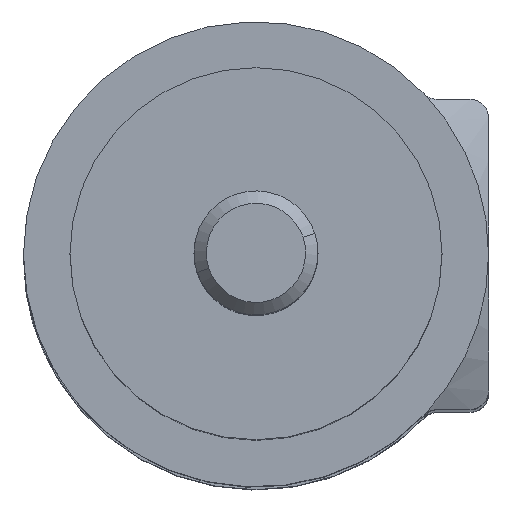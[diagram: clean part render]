
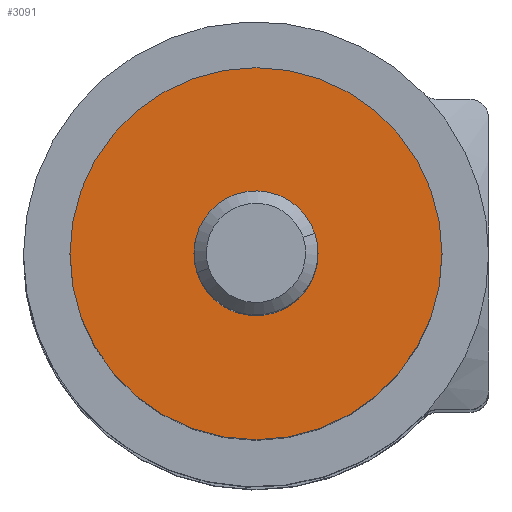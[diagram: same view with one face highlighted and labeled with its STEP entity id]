
A CAD part, top view. The second image highlights one B-rep face of the part: STEP entity #3091.
In plain terms, the highlighted planar face has unit normal (0, 0, 1) as drawn and (0, 0, -1) by its records, which use the part's own axes.
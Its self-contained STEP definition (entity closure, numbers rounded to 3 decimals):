
#348 = EDGE_LOOP ( 'NONE', ( #512, #3870 ) ) ;
#512 = ORIENTED_EDGE ( 'NONE', *, *, #3061, .T. ) ;
#757 = AXIS2_PLACEMENT_3D ( 'NONE', #4092, #1410, #4536 ) ;
#777 = CARTESIAN_POINT ( 'NONE',  ( 2., 0., 0. ) ) ;
#851 = CARTESIAN_POINT ( 'NONE',  ( 6., 0., 0. ) ) ;
#1078 = CIRCLE ( 'NONE', #2724, 2. ) ;
#1133 = EDGE_CURVE ( 'NONE', #3985, #3268, #2197, .T. ) ;
#1400 = EDGE_CURVE ( 'NONE', #3268, #3985, #1078, .T. ) ;
#1410 = DIRECTION ( 'NONE',  ( 0., 0., -1. ) ) ;
#1505 = EDGE_LOOP ( 'NONE', ( #3384, #2573 ) ) ;
#1530 = AXIS2_PLACEMENT_3D ( 'NONE', #5322, #5289, #5274 ) ;
#2197 = CIRCLE ( 'NONE', #757, 2. ) ;
#2200 = DIRECTION ( 'NONE',  ( 0., 0., -1. ) ) ;
#2252 = DIRECTION ( 'NONE',  ( -1., 0., 0. ) ) ;
#2267 = CARTESIAN_POINT ( 'NONE',  ( 0., 0., 0. ) ) ;
#2496 = DIRECTION ( 'NONE',  ( 0., 0., -1. ) ) ;
#2573 = ORIENTED_EDGE ( 'NONE', *, *, #1400, .F. ) ;
#2598 = PLANE ( 'NONE',  #4916 ) ;
#2639 = CARTESIAN_POINT ( 'NONE',  ( -6.072, -6.072, 0. ) ) ;
#2724 = AXIS2_PLACEMENT_3D ( 'NONE', #5128, #2496, #5563 ) ;
#2740 = VERTEX_POINT ( 'NONE', #3659 ) ;
#2745 = DIRECTION ( 'NONE',  ( 0., 0., 1. ) ) ;
#2848 = DIRECTION ( 'NONE',  ( 1., 0., 0. ) ) ;
#3061 = EDGE_CURVE ( 'NONE', #2740, #4344, #3612, .T. ) ;
#3091 = ADVANCED_FACE ( 'NONE', ( #5025, #4631 ), #2598, .F. ) ;
#3195 = EDGE_CURVE ( 'NONE', #4344, #2740, #4217, .T. ) ;
#3268 = VERTEX_POINT ( 'NONE', #777 ) ;
#3384 = ORIENTED_EDGE ( 'NONE', *, *, #1133, .F. ) ;
#3456 = AXIS2_PLACEMENT_3D ( 'NONE', #2267, #2200, #2252 ) ;
#3612 = CIRCLE ( 'NONE', #3456, 6. ) ;
#3659 = CARTESIAN_POINT ( 'NONE',  ( -6., 0., 0. ) ) ;
#3870 = ORIENTED_EDGE ( 'NONE', *, *, #3195, .T. ) ;
#3985 = VERTEX_POINT ( 'NONE', #5642 ) ;
#4092 = CARTESIAN_POINT ( 'NONE',  ( 0., 0., 0. ) ) ;
#4217 = CIRCLE ( 'NONE', #1530, 6. ) ;
#4344 = VERTEX_POINT ( 'NONE', #851 ) ;
#4536 = DIRECTION ( 'NONE',  ( -1., 0., 0. ) ) ;
#4631 = FACE_BOUND ( 'NONE', #1505, .T. ) ;
#4916 = AXIS2_PLACEMENT_3D ( 'NONE', #2639, #2745, #2848 ) ;
#5025 = FACE_OUTER_BOUND ( 'NONE', #348, .T. ) ;
#5128 = CARTESIAN_POINT ( 'NONE',  ( 0., 0., 0. ) ) ;
#5274 = DIRECTION ( 'NONE',  ( -1., 0., 0. ) ) ;
#5289 = DIRECTION ( 'NONE',  ( 0., 0., -1. ) ) ;
#5322 = CARTESIAN_POINT ( 'NONE',  ( 0., 0., 0. ) ) ;
#5563 = DIRECTION ( 'NONE',  ( -1., 0., 0. ) ) ;
#5642 = CARTESIAN_POINT ( 'NONE',  ( -2., 0., 0. ) ) ;
